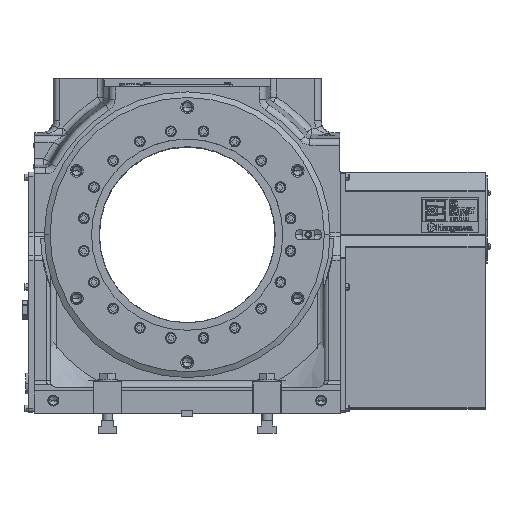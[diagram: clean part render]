
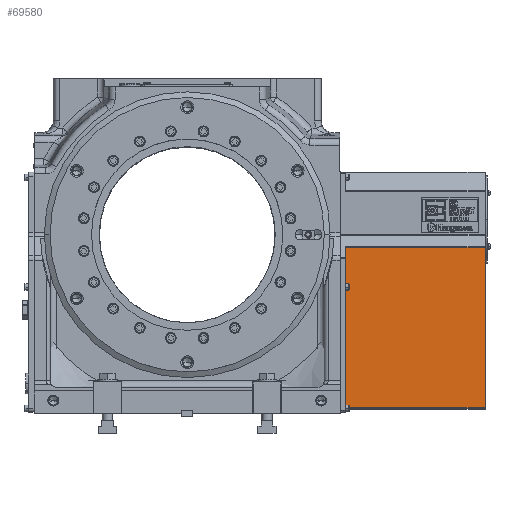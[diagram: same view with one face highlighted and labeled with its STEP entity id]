
A CAD part, top view. The second image highlights one B-rep face of the part: STEP entity #69580.
In plain terms, the highlighted planar face has unit normal (0, 0, 1).
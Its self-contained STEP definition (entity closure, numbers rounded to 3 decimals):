
#1223 = CARTESIAN_POINT ( 'NONE',  ( 227., 5., -17. ) ) ;
#2274 = ORIENTED_EDGE ( 'NONE', *, *, #89593, .T. ) ;
#10077 = PLANE ( 'NONE',  #111952 ) ;
#10492 = DIRECTION ( 'NONE',  ( 0., 1., 0. ) ) ;
#10709 = DIRECTION ( 'NONE',  ( 0., -1., 0. ) ) ;
#21197 = EDGE_LOOP ( 'NONE', ( #31031, #2274, #38982, #39904 ) ) ;
#23616 = VERTEX_POINT ( 'NONE', #27263 ) ;
#27263 = CARTESIAN_POINT ( 'NONE',  ( 8., 7., -17. ) ) ;
#31031 = ORIENTED_EDGE ( 'NONE', *, *, #41309, .T. ) ;
#31047 = EDGE_CURVE ( 'NONE', #115087, #59671, #109821, .T. ) ;
#32719 = LINE ( 'NONE', #107744, #79762 ) ;
#34677 = VECTOR ( 'NONE', #10709, 1000. ) ;
#38547 = CARTESIAN_POINT ( 'NONE',  ( 227., 5., -17. ) ) ;
#38945 = FACE_OUTER_BOUND ( 'NONE', #21197, .T. ) ;
#38982 = ORIENTED_EDGE ( 'NONE', *, *, #31047, .F. ) ;
#39904 = ORIENTED_EDGE ( 'NONE', *, *, #101368, .T. ) ;
#41309 = EDGE_CURVE ( 'NONE', #51008, #23616, #32719, .T. ) ;
#51008 = VERTEX_POINT ( 'NONE', #83505 ) ;
#55820 = CARTESIAN_POINT ( 'NONE',  ( 227., 258.172, -17. ) ) ;
#59671 = VERTEX_POINT ( 'NONE', #81439 ) ;
#61743 = CARTESIAN_POINT ( 'NONE',  ( 227., 258.172, -17. ) ) ;
#66895 = DIRECTION ( 'NONE',  ( 0., 0., -1. ) ) ;
#68204 = VECTOR ( 'NONE', #94076, 1000. ) ;
#69580 = ADVANCED_FACE ( 'NONE', ( #38945 ), #10077, .F. ) ;
#79633 = VECTOR ( 'NONE', #120902, 1000. ) ;
#79762 = VECTOR ( 'NONE', #117124, 1000. ) ;
#80025 = LINE ( 'NONE', #55820, #68204 ) ;
#81439 = CARTESIAN_POINT ( 'NONE',  ( 227., 7., -17. ) ) ;
#83505 = CARTESIAN_POINT ( 'NONE',  ( 8., 258.172, -17. ) ) ;
#89593 = EDGE_CURVE ( 'NONE', #23616, #59671, #104771, .T. ) ;
#92457 = CARTESIAN_POINT ( 'NONE',  ( 227., 7., -17. ) ) ;
#94076 = DIRECTION ( 'NONE',  ( -1., 0., 0. ) ) ;
#101368 = EDGE_CURVE ( 'NONE', #115087, #51008, #80025, .T. ) ;
#104771 = LINE ( 'NONE', #92457, #79633 ) ;
#107744 = CARTESIAN_POINT ( 'NONE',  ( 8., 5., -17. ) ) ;
#109821 = LINE ( 'NONE', #1223, #34677 ) ;
#111952 = AXIS2_PLACEMENT_3D ( 'NONE', #38547, #66895, #10492 ) ;
#115087 = VERTEX_POINT ( 'NONE', #61743 ) ;
#117124 = DIRECTION ( 'NONE',  ( 0., -1., 0. ) ) ;
#120902 = DIRECTION ( 'NONE',  ( 1., 0., 0. ) ) ;
